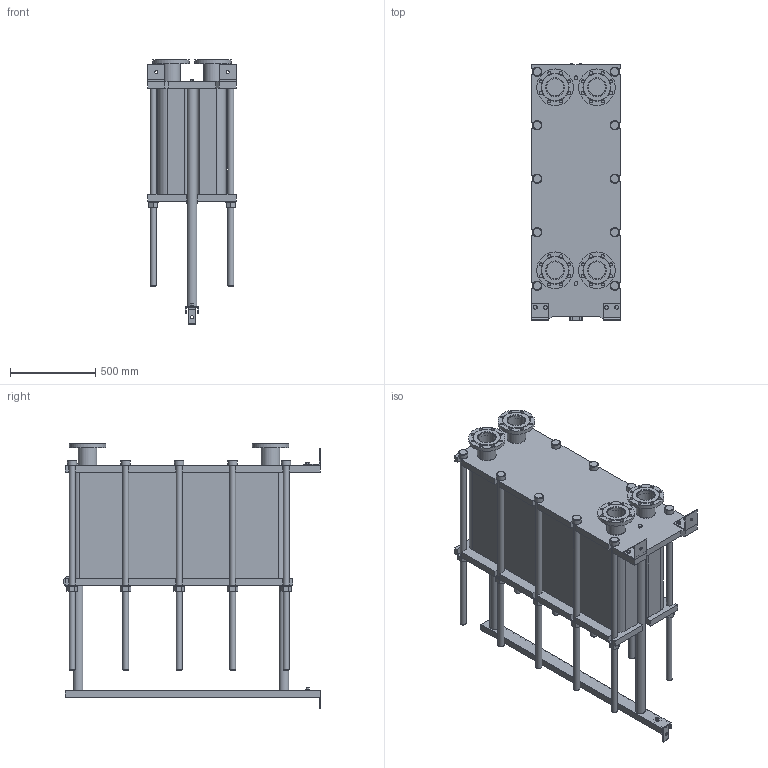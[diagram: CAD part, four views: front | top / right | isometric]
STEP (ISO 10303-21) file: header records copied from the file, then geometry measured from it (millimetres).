
FILE_DESCRIPTION(/* description */ (''),/* implementation_level */ '2;1');
FILE_NAME(/* name */ 'C:\Users\zhuro\Desktop\ENCO\TO\ЭН-04\ЭН-0,5-04-181-1.stp',/* time_stamp */ '2022-06-06T11:00:49+03:00',/* author */ ('zhuro'),/* organization */ (''),/* preprocessor_version */ 'ST-DEVELOPER v18.1',/* originating_system */ 'Autodesk Inventor 2022',/* authorisation */ '');
FILE_SCHEMA (('AUTOMOTIVE_DESIGN { 1 0 10303 214 3 1 1 }'));
Length unit declared in the file: millimetre
Products named in the file (1): ЭН-0,5-04-181-1
Bounding box: 520 x 1510 x 1560.5 mm (x, y, z)
Volume: 387638884.6 mm3; surface area: 10136459.6 mm2
Topology: 45 solids, 45 shells, 668 faces, 1611 edges, 1048 vertices
Faces by surface type: plane 457, cylinder 166, cone 39, torus 6
Full cylindrical faces by diameter (mm): 8 x4, 10 x2, 16 x8, 18 x35, 36 x25, 40 x2, 42 x1, 45 x4, 54 x10, 57 x2, 60 x10, 68 x2, 100 x4, 110 x8, 215 x4
Entity records: 23607 total; most frequent: CARTESIAN_POINT 7348, DIRECTION 3371, ORIENTED_EDGE 3142, EDGE_CURVE 1571, AXIS2_PLACEMENT_3D 1199, VERTEX_POINT 1044, LINE 973, VECTOR 973
